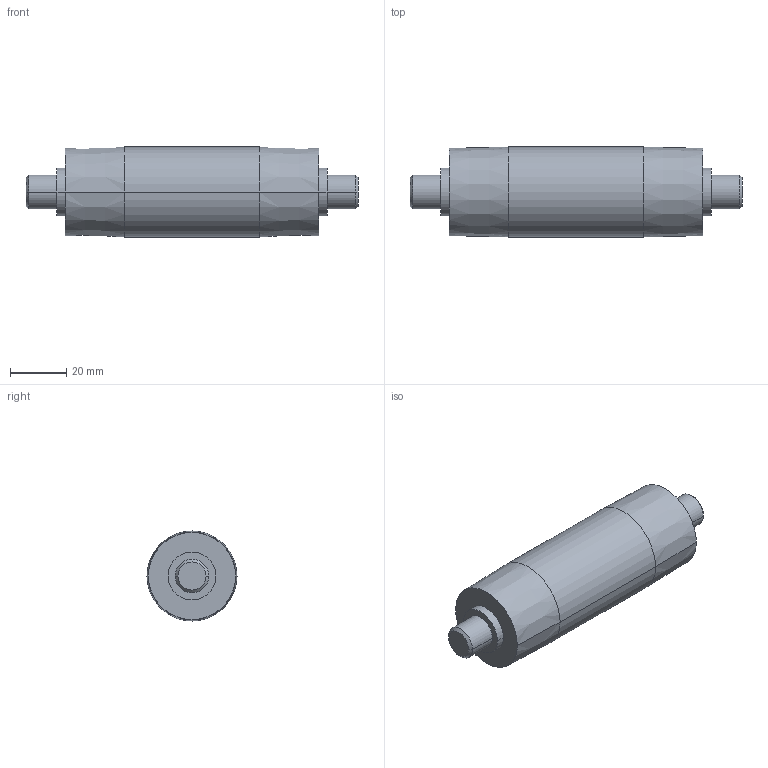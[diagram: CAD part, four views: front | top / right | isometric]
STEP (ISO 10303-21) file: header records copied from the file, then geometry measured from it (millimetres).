
FILE_DESCRIPTION (( 'STEP AP214' ), '1' );
FILE_NAME ('084.030.192.STEP', '2021-02-05T15:50:32', ( '' ), ( '' ), 'SwSTEP 2.0', 'SolidWorks 2018', '' );
FILE_SCHEMA (( 'AUTOMOTIVE_DESIGN' ));
Length unit declared in the file: millimetre
Products named in the file (1): 084.030.192
Bounding box: 118 x 32 x 32 mm (x, y, z)
Volume: 75152.1 mm3; surface area: 11595.6 mm2
Topology: 1 solids, 1 shells, 24 faces, 46 edges, 28 vertices
Faces by surface type: cylinder 10, cone 8, plane 6
Entity records: 648 total; most frequent: DIRECTION 124, CARTESIAN_POINT 99, ORIENTED_EDGE 92, AXIS2_PLACEMENT_3D 53, EDGE_CURVE 46, VERTEX_POINT 28, CIRCLE 28, EDGE_LOOP 28
